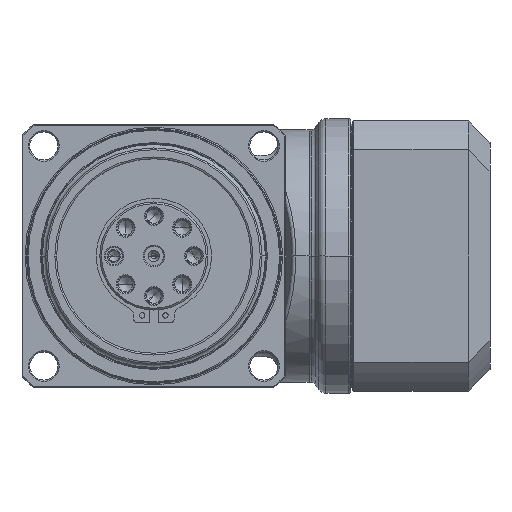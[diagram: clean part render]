
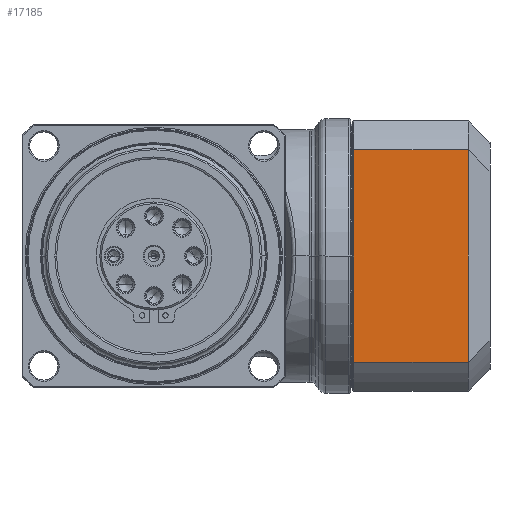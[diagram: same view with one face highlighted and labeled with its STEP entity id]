
A CAD part, left-side view. The second image highlights one B-rep face of the part: STEP entity #17185.
In plain terms, the highlighted planar face has unit normal (-1, 0, 0) as drawn and (0, -1, 0) by its records, which use the part's own axes.
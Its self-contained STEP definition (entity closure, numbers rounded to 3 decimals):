
#15948=CARTESIAN_POINT('',(49.132,-62.5,56.));
#15957=DIRECTION('',(1.,0.,0.));
#15958=VECTOR('',#15957,98.265);
#15959=CARTESIAN_POINT('',(-49.132,-62.5,56.));
#15960=LINE('',#15959,#15958);
#15961=DIRECTION('',(0.,0.,1.));
#15962=VECTOR('',#15961,53.1);
#15963=CARTESIAN_POINT('',(49.132,-62.5,
2.9));
#15964=LINE('',#15963,#15962);
#15965=DIRECTION('',(1.,0.,0.));
#15966=VECTOR('',#15965,98.265);
#15967=CARTESIAN_POINT('',(-49.132,-62.5,
2.9));
#15968=LINE('',#15967,#15966);
#15969=DIRECTION('',(0.,0.,1.));
#15970=VECTOR('',#15969,53.1);
#15971=CARTESIAN_POINT('',(-49.132,-62.5,
2.9));
#15972=LINE('',#15971,#15970);
#16361=CARTESIAN_POINT('',(-49.132,-62.5,2.9));
#16363=VERTEX_POINT('',#16361);
#16366=CARTESIAN_POINT('',(49.132,-62.5,
2.9));
#16367=VERTEX_POINT('',#16366);
#16413=CARTESIAN_POINT('',(-49.132,-62.5,56.));
#16415=VERTEX_POINT('',#16413);
#16423=VERTEX_POINT('',#15948);
#17171=CARTESIAN_POINT('',(-62.5,-62.5,0.));
#17172=DIRECTION('',(0.,-1.,0.));
#17173=DIRECTION('',(1.,0.,0.));
#17174=AXIS2_PLACEMENT_3D('',#17171,#17172,#17173);
#17175=PLANE('',#17174);
#17176=ORIENTED_EDGE('',*,*,#17164,.T.);
#17178=ORIENTED_EDGE('',*,*,#17177,.F.);
#17180=ORIENTED_EDGE('',*,*,#17179,.F.);
#17182=ORIENTED_EDGE('',*,*,#17181,.T.);
#17183=EDGE_LOOP('',(#17176,#17178,#17180,#17182));
#17184=FACE_OUTER_BOUND('',#17183,.F.);
#17185=ADVANCED_FACE('',(#17184),#17175,.T.);
#17164=EDGE_CURVE('',#16415,#16423,#15960,.T.);
#17177=EDGE_CURVE('',#16367,#16423,#15964,.T.);
#17179=EDGE_CURVE('',#16363,#16367,#15968,.T.);
#17181=EDGE_CURVE('',#16363,#16415,#15972,.T.);
